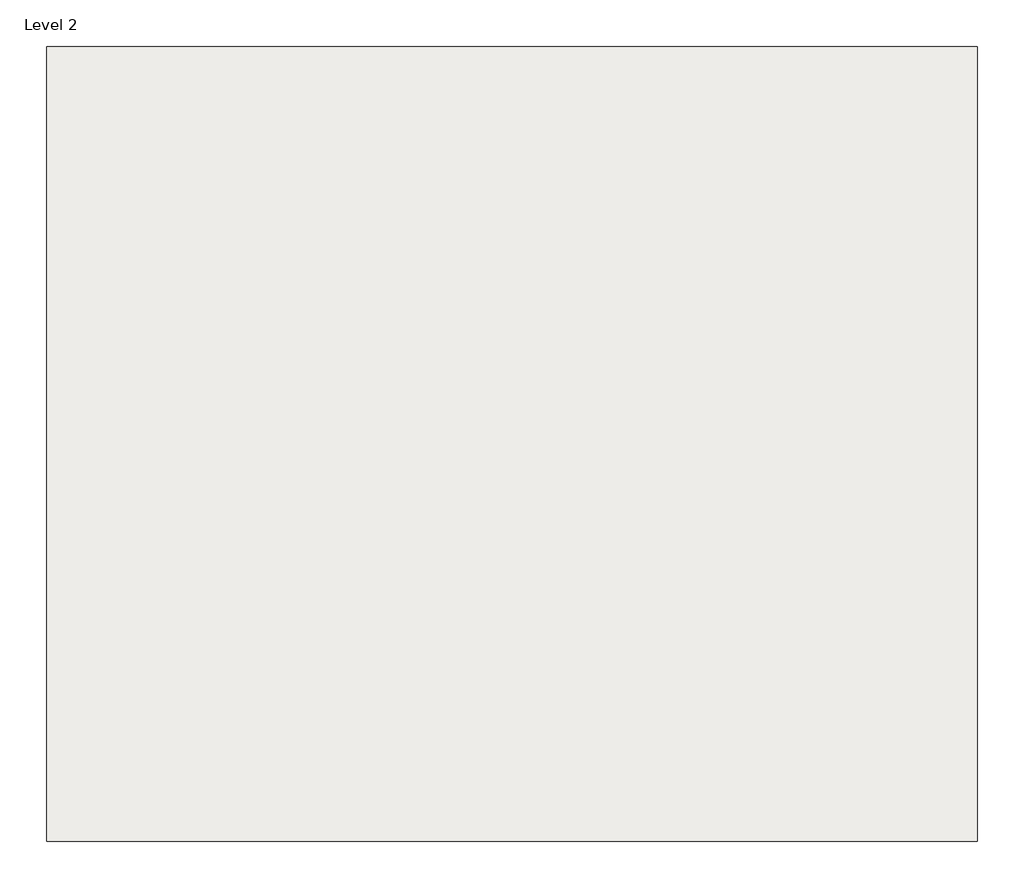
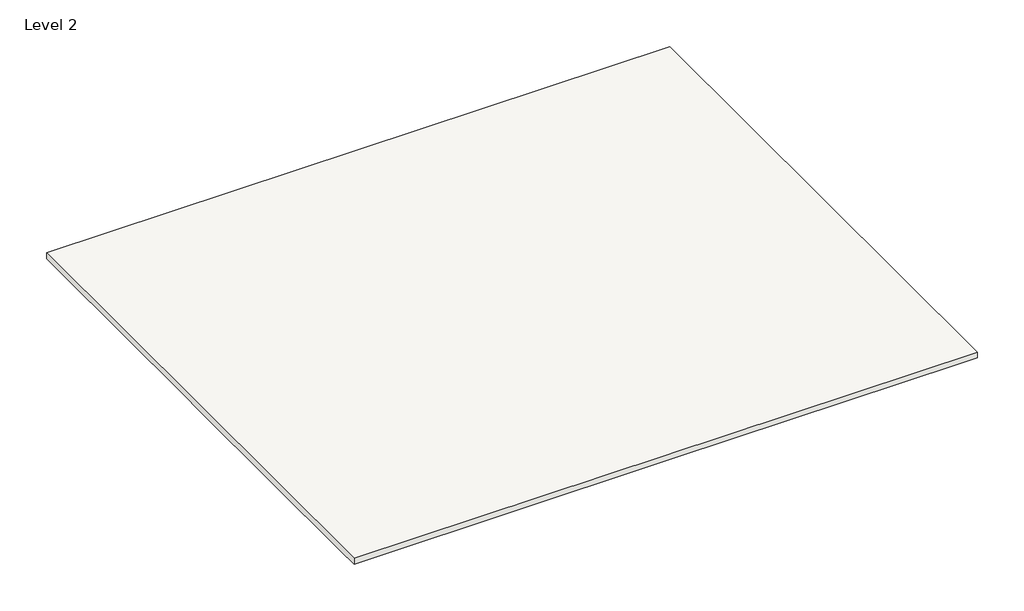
# One storey: 1 slab.
"""IFC4 building model written with IfcOpenShell, lengths in millimetres."""

from ifc_helpers import new_model, si_unit, origin, place, context, project, spatial, faceted_brep, element, save

model = new_model("IFC4")

# Units and contexts
model_context = context("Model", 3, world=origin())
ifc_project = project(units=[si_unit("LENGTHUNIT", "METRE", prefix="MILLI")], contexts=[model_context])

# Site, building, storey
site = spatial("IfcSite", under=ifc_project)
building = spatial("IfcBuilding", under=site)
storey = spatial("IfcBuildingStorey", under=building, Name="Level 2", Elevation=3500.0)

# Slab
placement = place(None, origin())
element("IfcSlab", 1, ObjectType="Generic 100 mm", at=placement, inside=storey, context=model_context, shape_type="Brep", body=[
    faceted_brep([(2079.6663874, 1127.8962977, 3500.0), (2079.6663874, 753.2507366, 3500.0), (2079.6663874, -2796.7492634, 3500.0), (2079.6663874, -3246.7492634, 3500.0), (2079.6663874, -7296.7492634, 3500.0), (2079.6663874, -7671.7492634, 3500.0), (1779.6663874, -7671.7492634, 3500.0), (-2920.3336126, -7671.7492634, 3500.0), (-3220.3336126, -7671.7492634, 3500.0), (-7920.3336126, -7671.7492634, 3500.0), (-8220.3336126, -7671.7492634, 3500.0), (-8220.3336126, -7296.7492634, 3500.0), (-8220.3336126, -3246.7492634, 3500.0), (-8220.3336126, -2796.7492634, 3500.0), (-8220.3336126, 753.2507366, 3500.0), (-8220.3336126, 1127.8962977, 3500.0), (2079.6663874, 1127.8962977, 3600.0), (-8220.3336126, 1127.8962977, 3600.0), (-8220.3336126, -7671.7492634, 3600.0), (2079.6663874, -7671.7492634, 3600.0)], [[[0, 1, 2, 3, 4, 5, 6, 7, 8, 9, 10, 11, 12, 13, 14, 15]], [[16, 17, 18, 19]], [[5, 4, 3, 2, 1, 0, 16, 19]], [[10, 9, 8, 7, 6, 5, 19, 18]], [[15, 14, 13, 12, 11, 10, 18, 17]], [[0, 15, 17, 16]]]),
])

save(model, "model.ifc")
